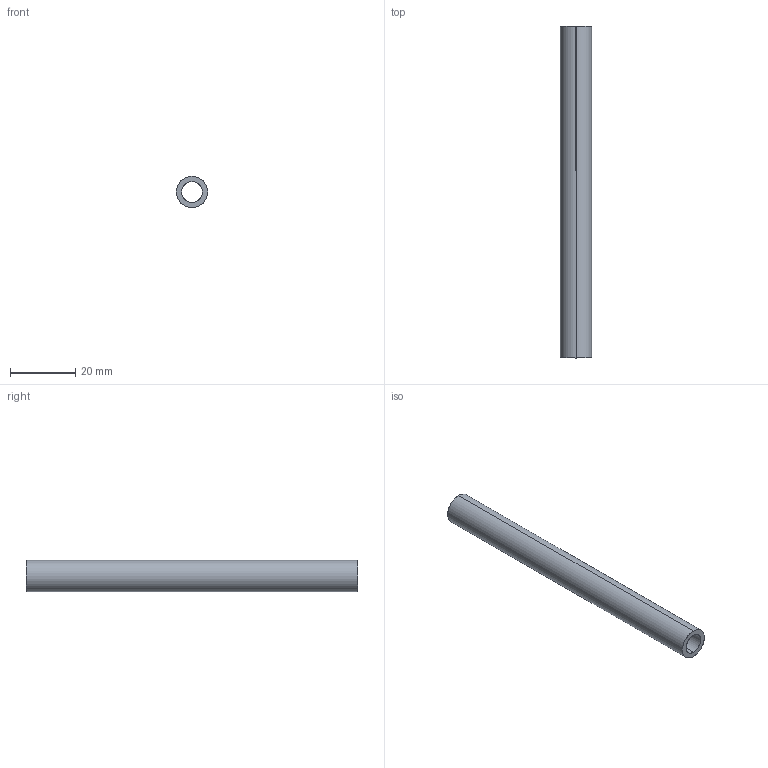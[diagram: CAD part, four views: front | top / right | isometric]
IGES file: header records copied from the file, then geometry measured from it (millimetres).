
Start section: SolidWorks IGES file using analytic representation for surfaces
Global section: file name: C:\Users\Bud\Documents\GitHub\telemetry\Hardware\Masthead hardware\IGES\mounting shaft.IGS; native system: SolidWorks 2011; preprocessor: SolidWorks 2011; author: Bud; date: 131225.212038; units: inch
Bounding box: 9.53 x 101.6 x 9.53 mm (x, y, z)
Surface area: 5146.2 mm2 (no closed solid volume)
Topology: 0 solids, 0 shells, 6 faces, 144 edges, 144 vertices
Faces by surface type: revolution 4, bspline 2
